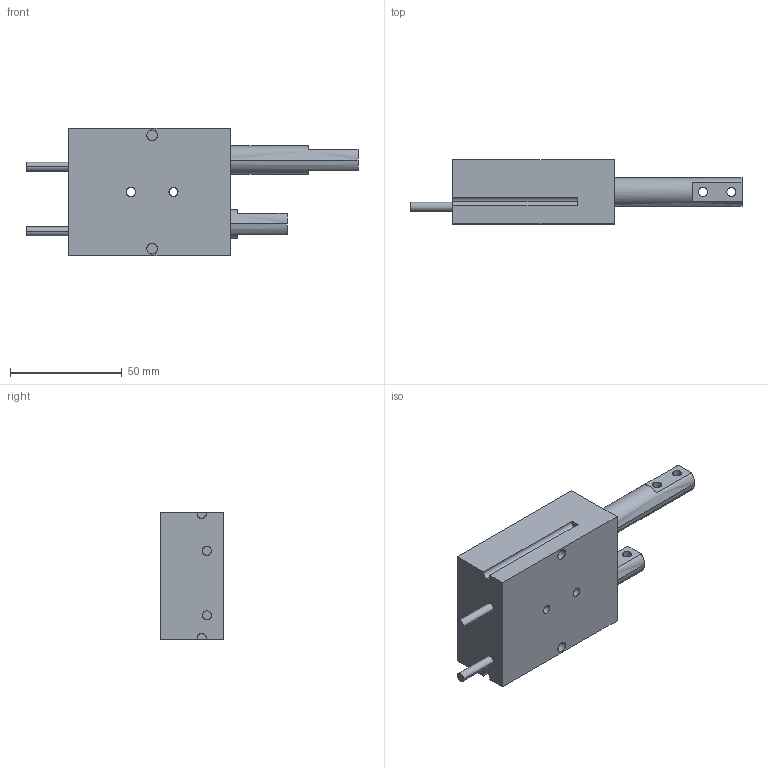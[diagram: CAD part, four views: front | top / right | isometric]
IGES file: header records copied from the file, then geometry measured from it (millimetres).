
Start section: SolidWorks IGES file using analytic representation for surfaces
Global section: file name: C:\Users\jmkuhnes\Pictures\My Transfers\AGE-2\AGE-2 in MM.IGS; native system: SolidWorks 2013; preprocessor: SolidWorks 2013; author: jmkuhnes; date: 141119.090133; units: millimetre
Bounding box: 148.69 x 28.57 x 57.15 mm (x, y, z)
Surface area: 32812.8 mm2 (no closed solid volume)
Topology: 0 solids, 0 shells, 125 faces, 2744 edges, 2744 vertices
Faces by surface type: revolution 75, bspline 50
